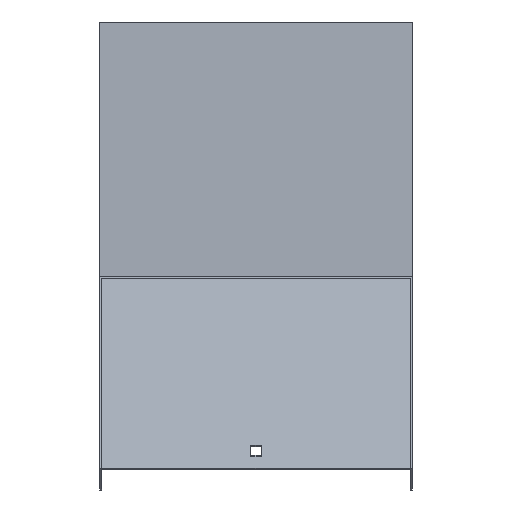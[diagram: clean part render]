
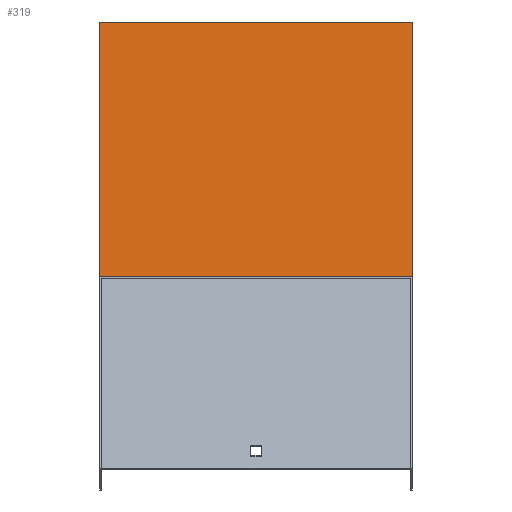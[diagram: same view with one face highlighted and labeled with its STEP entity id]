
A CAD part, top view. The second image highlights one B-rep face of the part: STEP entity #319.
In plain terms, the highlighted planar face has unit normal (0, 0.924, 0.383).
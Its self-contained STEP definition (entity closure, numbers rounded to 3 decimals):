
#100 = VECTOR ( 'NONE', #732, 1000. ) ;
#115 = EDGE_CURVE ( 'NONE', #470, #805, #578, .T. ) ;
#133 = DIRECTION ( 'NONE',  ( 0., -0.383, 0.924 ) ) ;
#208 = ORIENTED_EDGE ( 'NONE', *, *, #265, .T. ) ;
#218 = ORIENTED_EDGE ( 'NONE', *, *, #697, .T. ) ;
#226 = DIRECTION ( 'NONE',  ( 0., 0.383, -0.924 ) ) ;
#240 = DIRECTION ( 'NONE',  ( -1., 0., 0. ) ) ;
#245 = VERTEX_POINT ( 'NONE', #345 ) ;
#249 = LINE ( 'NONE', #511, #553 ) ;
#265 = EDGE_CURVE ( 'NONE', #515, #805, #329, .T. ) ;
#293 = LINE ( 'NONE', #434, #372 ) ;
#319 = ADVANCED_FACE ( 'NONE', ( #623 ), #478, .F. ) ;
#329 = LINE ( 'NONE', #464, #100 ) ;
#345 = CARTESIAN_POINT ( 'NONE',  ( 101.5, 20., 175.978 ) ) ;
#372 = VECTOR ( 'NONE', #240, 1000. ) ;
#385 = CARTESIAN_POINT ( 'NONE',  ( 101.5, -146.068, 576.902 ) ) ;
#412 = VECTOR ( 'NONE', #587, 1000. ) ;
#434 = CARTESIAN_POINT ( 'NONE',  ( 101.5, 20., 175.978 ) ) ;
#464 = CARTESIAN_POINT ( 'NONE',  ( -101.5, 18.478, 179.654 ) ) ;
#470 = VERTEX_POINT ( 'NONE', #760 ) ;
#478 = PLANE ( 'NONE',  #536 ) ;
#502 = ORIENTED_EDGE ( 'NONE', *, *, #115, .F. ) ;
#511 = CARTESIAN_POINT ( 'NONE',  ( 101.5, 18.478, 179.654 ) ) ;
#515 = VERTEX_POINT ( 'NONE', #723 ) ;
#536 = AXIS2_PLACEMENT_3D ( 'NONE', #742, #551, #226 ) ;
#545 = ORIENTED_EDGE ( 'NONE', *, *, #792, .F. ) ;
#551 = DIRECTION ( 'NONE',  ( 0., -0.924, -0.383 ) ) ;
#553 = VECTOR ( 'NONE', #133, 1000. ) ;
#578 = LINE ( 'NONE', #385, #412 ) ;
#587 = DIRECTION ( 'NONE',  ( -1., 0., 0. ) ) ;
#612 = EDGE_LOOP ( 'NONE', ( #208, #502, #545, #218 ) ) ;
#623 = FACE_OUTER_BOUND ( 'NONE', #612, .T. ) ;
#697 = EDGE_CURVE ( 'NONE', #245, #515, #293, .T. ) ;
#723 = CARTESIAN_POINT ( 'NONE',  ( -101.5, 20., 175.978 ) ) ;
#732 = DIRECTION ( 'NONE',  ( 0., -0.383, 0.924 ) ) ;
#742 = CARTESIAN_POINT ( 'NONE',  ( 101.5, 18.478, 179.654 ) ) ;
#760 = CARTESIAN_POINT ( 'NONE',  ( 101.5, -146.068, 576.902 ) ) ;
#792 = EDGE_CURVE ( 'NONE', #245, #470, #249, .T. ) ;
#805 = VERTEX_POINT ( 'NONE', #854 ) ;
#854 = CARTESIAN_POINT ( 'NONE',  ( -101.5, -146.068, 576.902 ) ) ;
